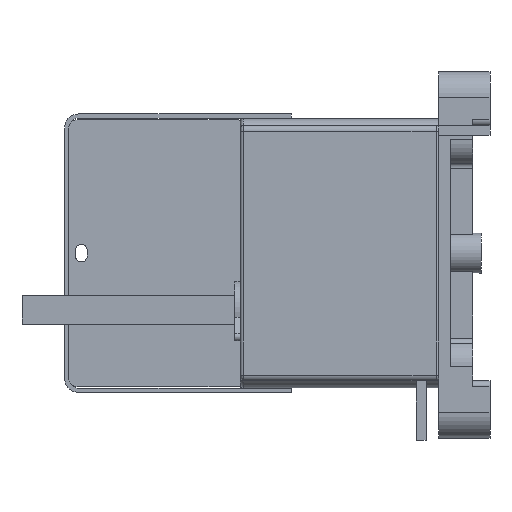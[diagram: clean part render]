
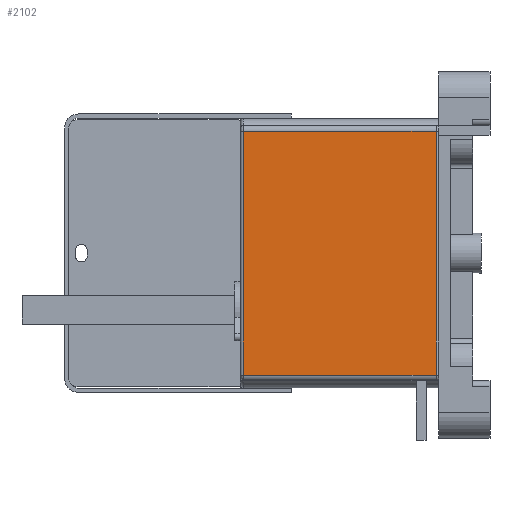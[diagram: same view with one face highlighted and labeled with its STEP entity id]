
A CAD part, left-side view. The second image highlights one B-rep face of the part: STEP entity #2102.
In plain terms, the highlighted planar face has unit normal (-1, 0, 0).
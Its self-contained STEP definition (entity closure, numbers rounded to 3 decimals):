
#2102=ADVANCED_FACE('',(#3429),#2664,.F.);
#2664=PLANE('',#18026);
#3429=FACE_OUTER_BOUND('',#4471,.T.);
#4471=EDGE_LOOP('',(#8927,#8928,#8929,#8930));
#8927=ORIENTED_EDGE('',*,*,#13097,.F.);
#8928=ORIENTED_EDGE('',*,*,#13095,.T.);
#8929=ORIENTED_EDGE('',*,*,#13098,.T.);
#8930=ORIENTED_EDGE('',*,*,#12796,.T.);
#10568=VERTEX_POINT('',#26820);
#10570=VERTEX_POINT('',#26826);
#10765=VERTEX_POINT('',#27506);
#10767=VERTEX_POINT('',#27527);
#12796=EDGE_CURVE('',#10568,#10570,#14669,.T.);
#13095=EDGE_CURVE('',#10765,#10767,#14838,.T.);
#13097=EDGE_CURVE('',#10765,#10570,#14840,.T.);
#13098=EDGE_CURVE('',#10767,#10568,#14841,.T.);
#14669=LINE('',#26827,#16400);
#14838=LINE('',#27547,#16569);
#14840=LINE('',#27550,#16571);
#14841=LINE('',#27552,#16572);
#16400=VECTOR('',#21968,1.);
#16569=VECTOR('',#22621,1.);
#16571=VECTOR('',#22625,1.);
#16572=VECTOR('',#22628,1.);
#18026=AXIS2_PLACEMENT_3D('',#27553,#22629,#22630);
#21968=DIRECTION('',(0.,0.,1.));
#22621=DIRECTION('',(0.,0.,-1.));
#22625=DIRECTION('',(0.,-1.,0.));
#22628=DIRECTION('',(0.,-1.,0.));
#22629=DIRECTION('',(1.,0.,0.));
#22630=DIRECTION('',(0.,0.,-1.));
#26820=CARTESIAN_POINT('',(-41.,1.,-43.));
#26826=CARTESIAN_POINT('',(-41.,1.,43.));
#26827=CARTESIAN_POINT('',(-41.,1.,-43.));
#27506=CARTESIAN_POINT('',(-41.,69.,43.));
#27527=CARTESIAN_POINT('',(-41.,69.,-43.));
#27547=CARTESIAN_POINT('',(-41.,69.,-43.));
#27550=CARTESIAN_POINT('',(-41.,35.,43.));
#27552=CARTESIAN_POINT('',(-41.,35.,-43.));
#27553=CARTESIAN_POINT('',(-41.,35.,-43.));
